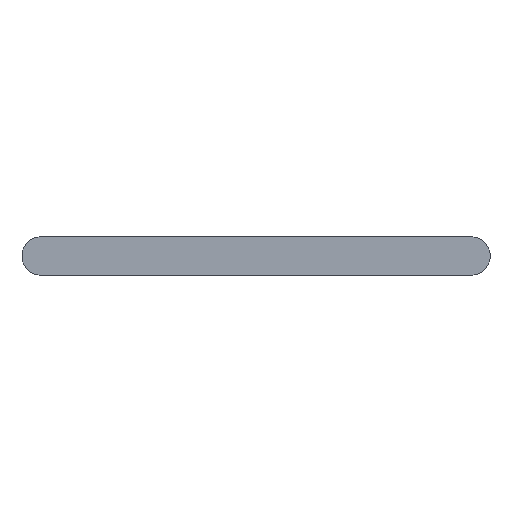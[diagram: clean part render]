
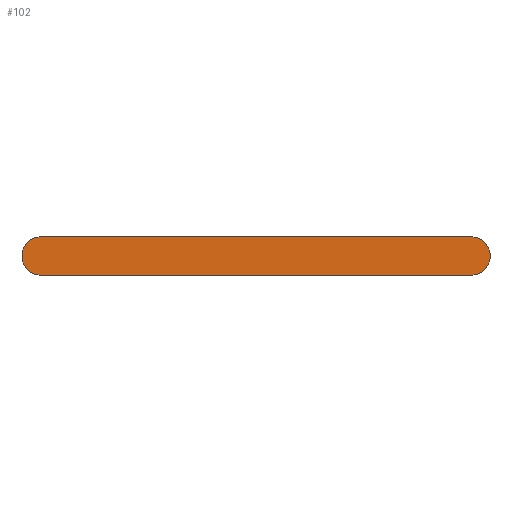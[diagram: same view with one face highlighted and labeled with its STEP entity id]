
A CAD part, front view. The second image highlights one B-rep face of the part: STEP entity #102.
In plain terms, the highlighted planar face has unit normal (0, -1, 0).
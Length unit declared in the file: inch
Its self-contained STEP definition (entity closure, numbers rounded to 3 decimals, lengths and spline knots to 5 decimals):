
#15=CIRCLE('',#119,0.0465);
#17=CIRCLE('',#123,0.0465);
#26=FACE_OUTER_BOUND('',#32,.T.);
#32=EDGE_LOOP('',(#89,#90,#91,#92));
#33=LINE('',#161,#41);
#38=LINE('',#175,#46);
#41=VECTOR('',#131,0.3937);
#46=VECTOR('',#144,0.3937);
#49=VERTEX_POINT('',#159);
#50=VERTEX_POINT('',#160);
#53=VERTEX_POINT('',#168);
#55=VERTEX_POINT('',#174);
#57=EDGE_CURVE('',#49,#50,#33,.T.);
#61=EDGE_CURVE('',#53,#49,#15,.T.);
#64=EDGE_CURVE('',#55,#53,#38,.T.);
#67=EDGE_CURVE('',#50,#55,#17,.T.);
#89=ORIENTED_EDGE('',*,*,#67,.F.);
#90=ORIENTED_EDGE('',*,*,#57,.F.);
#91=ORIENTED_EDGE('',*,*,#61,.F.);
#92=ORIENTED_EDGE('',*,*,#64,.F.);
#96=PLANE('',#126);
#102=ADVANCED_FACE('',(#26),#96,.F.);
#119=AXIS2_PLACEMENT_3D('',#169,#137,#138);
#123=AXIS2_PLACEMENT_3D('',#180,#149,#150);
#126=AXIS2_PLACEMENT_3D('',#183,#155,#156);
#131=DIRECTION('',(-1.,0.,0.));
#137=DIRECTION('center_axis',(0.,1.,0.));
#138=DIRECTION('ref_axis',(0.,0.,1.));
#144=DIRECTION('',(1.,0.,0.));
#149=DIRECTION('center_axis',(0.,1.,0.));
#150=DIRECTION('ref_axis',(0.,0.,-1.));
#155=DIRECTION('center_axis',(0.,1.,0.));
#156=DIRECTION('ref_axis',(1.,0.,0.));
#159=CARTESIAN_POINT('',(1.0735,0.,-0.0465));
#160=CARTESIAN_POINT('',(0.0465,0.,-0.0465));
#161=CARTESIAN_POINT('',(1.0735,0.,-0.0465));
#168=CARTESIAN_POINT('',(1.0735,0.,0.0465));
#169=CARTESIAN_POINT('Origin',(1.0735,0.,0.));
#174=CARTESIAN_POINT('',(0.0465,0.,0.0465));
#175=CARTESIAN_POINT('',(0.0465,0.,0.0465));
#180=CARTESIAN_POINT('Origin',(0.0465,0.,0.));
#183=CARTESIAN_POINT('Origin',(0.56,0.,0.));
